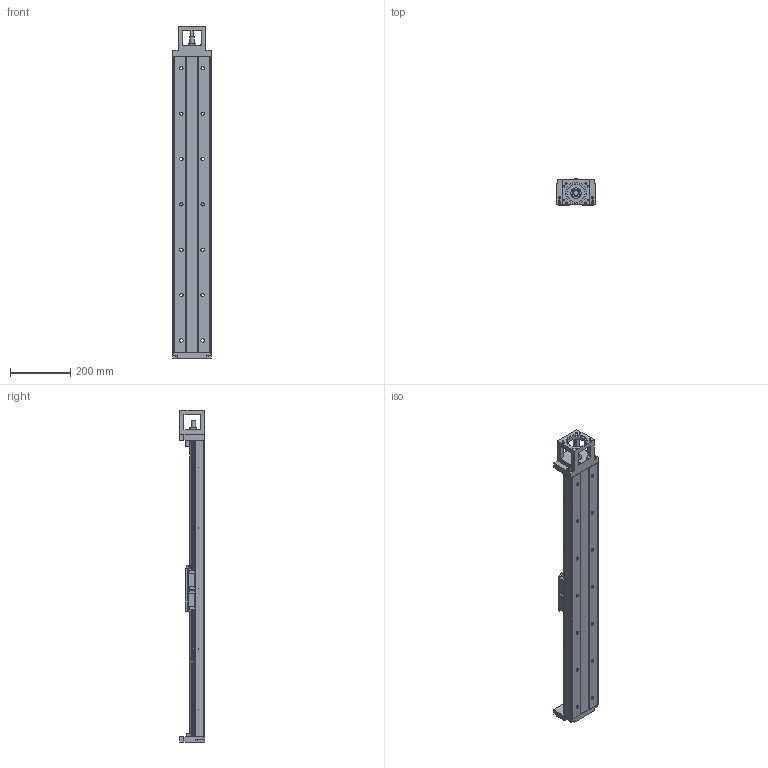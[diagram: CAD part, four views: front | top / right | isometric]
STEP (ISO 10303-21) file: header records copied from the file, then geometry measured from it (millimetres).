
FILE_DESCRIPTION(/* description */ (''),/* implementation_level */ '2;1');
FILE_NAME(/* name */ 'TKK130-980A1F0.stp',/* time_stamp */ '2016-12-22T10:27:06+08:00',/* author */ (''),/* organization */ (''),/* preprocessor_version */ 'ST-DEVELOPER v15',/* originating_system */ 'SIEMENS PLM Software NX 8.5',/* authorisation */ '');
FILE_SCHEMA (('AUTOMOTIVE_DESIGN { 1 0 10303 214 3 1 1 1 }'));
Length unit declared in the file: millimetre
Products named in the file (3): 02; 01; TKK130-980A1F0
Assembly tree (2 placements, depth 2):
  TKK130-980A1F0
    01
    02
Bounding box: 130 x 85 x 1098 mm (x, y, z)
Volume: 4246453.1 mm3; surface area: 698443.1 mm2
Topology: 2 solids, 38 shells, 951 faces, 2526 edges, 1650 vertices
Faces by surface type: plane 537, cylinder 263, cone 111, extrusion 33, bspline 6, torus 1
Full cylindrical faces by diameter (mm): 2.1 x10, 2.5 x4, 3.3 x56, 4.5 x16, 5 x23, 6.6 x6, 6.8 x8, 7 x2, 8 x8, 8.5 x4, 9 x8, 11 x14, 12 x4, 15 x1, 16.3 x1, 17 x16, 25 x1, 35 x1, 40 x3, 60.03 x1, 70.03 x1
Entity records: 28388 total; most frequent: CARTESIAN_POINT 6244, DIRECTION 4255, ORIENTED_EDGE 3968, EDGE_CURVE 1984, AXIS2_PLACEMENT_3D 1507, VERTEX_POINT 1498, EDGE_LOOP 1330, VECTOR 1241
